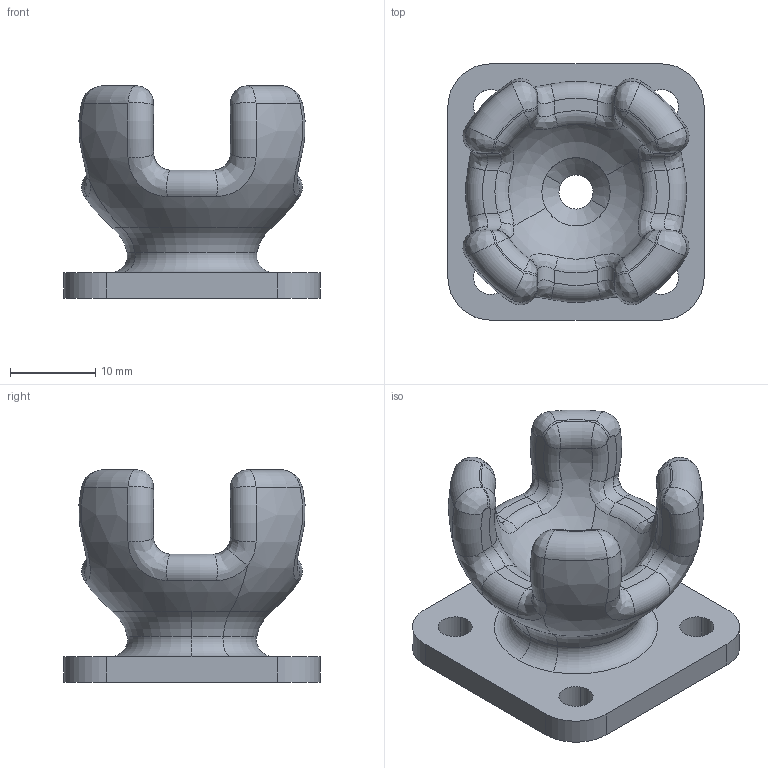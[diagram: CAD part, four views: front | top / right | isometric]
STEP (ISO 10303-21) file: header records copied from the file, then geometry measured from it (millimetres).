
FILE_DESCRIPTION((''),'2;1');
FILE_NAME('Female.stp','2015-12-03T18:19:08+00:00',('none'),('none'),'','','none');
FILE_SCHEMA(('CONFIG_CONTROL_DESIGN'));
Length unit declared in the file: millimetre
Products named in the file (1): Female
Bounding box: 30 x 30 x 24.88 mm (x, y, z)
Volume: 7554.4 mm3; surface area: 4508.8 mm2
Topology: 1 solids, 1 shells, 134 faces, 322 edges, 190 vertices
Faces by surface type: bspline 44, torus 38, cylinder 24, plane 18, cone 6, sphere 4
Entity records: 6907 total; most frequent: CARTESIAN_POINT 4277, ORIENTED_EDGE 644, EDGE_CURVE 322, DIRECTION 319, AXIS2_PLACEMENT_3D 206, VERTEX_POINT 190, EDGE_LOOP 144, B_SPLINE_CURVE_WITH_KNOTS 139
